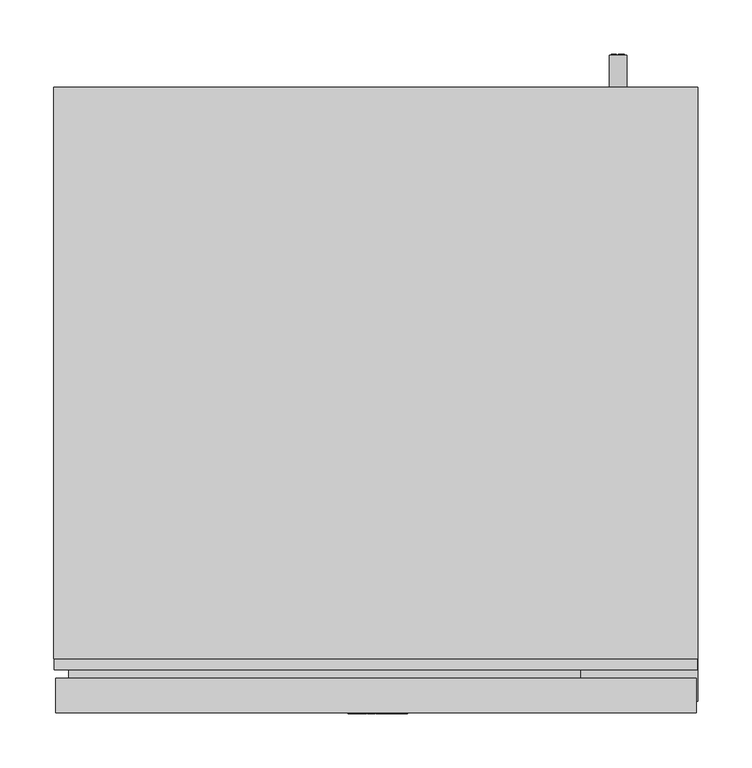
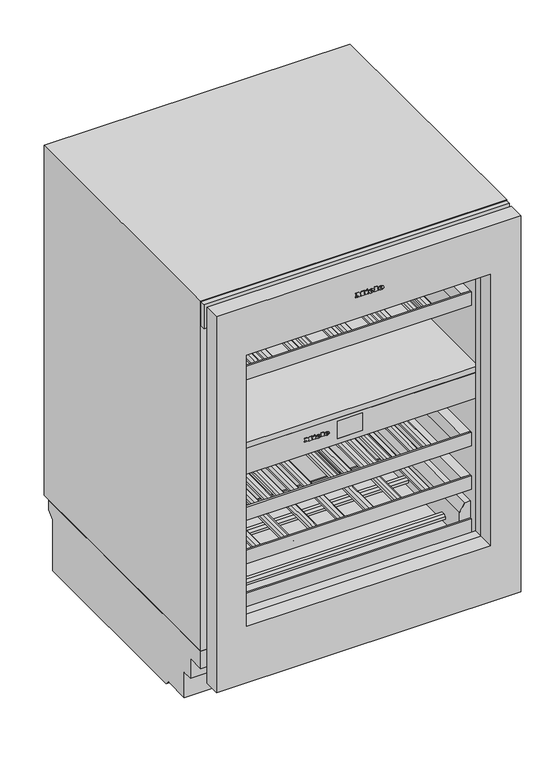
"""IFC4 building model written with IfcOpenShell, lengths in millimetres: proxy geometry, 12519660_EU1_KWTUS7196E_OBSW : 39719610_EU1_12519660_KWTUS7196E_OBSW."""

from ifc_helpers import new_model, si_unit, point, frame, frame_2d, origin, origin_with_axes, place, context, project, spatial, polyline, circle_curve, ellipse_curve, trimmed, segment, composite_curve, outline, extrude, faceted_brep, source, transform, mapped, element, save
from ifc_brep_helpers import plane_surface, cylinder_surface, revolved_surface, extruded_surface, advanced_brep


def specialty_equipment_d994dd0a(model_context):
    return source(origin(), model_context, "Body", "SolidModel", [
        extrude(outline(polyline([(808.991, -25.542), (808.991, -24.453), (802.97, -24.453), (802.97, -25.542), (801.458, -25.542), (801.458, -21.582), (802.97, -21.582), (802.97, -22.662), (806.7921247, -22.662), (801.458, -18.639), (806.8982223, -14.598), (802.97, -14.598), (802.97, -15.705), (801.458, -15.705), (801.458, -8.523), (802.97, -8.523), (802.97, -9.666), (808.991, -9.666), (808.991, -8.523), (810.458, -8.523), (810.458, -14.004), (807.083, -16.632), (810.458, -19.269), (810.458, -25.542), (808.991, -25.542)])), frame((0.0, -1.0, 0.0), z_axis=(0.0, 1.0, 0.0), x_axis=(0.0, 0.0, 1.0)), (0.0, 0.0, 1.0), 1.0),
        extrude(outline(polyline([(808.991, 10.98), (808.991, 12.06), (802.97, 12.06), (802.97, 10.98), (801.458, 10.98), (801.458, 18.279), (802.97, 18.279), (802.97, 17.172), (810.458, 17.172), (810.458, 10.98), (808.991, 10.98)])), frame((0.0, -1.0, 0.0), z_axis=(0.0, 1.0, 0.0), x_axis=(0.0, 0.0, 1.0)), (0.0, 0.0, 1.0), 1.0),
        extrude(outline(polyline([(809.927, -5.382), (808.469, -4.698), (809.891, -1.647), (811.349, -2.322), (809.927, -5.382)])), frame((0.0, -1.0, 0.0), z_axis=(0.0, 1.0, 0.0), x_axis=(0.0, 0.0, 1.0)), (0.0, 0.0, 1.0), 1.0),
        extrude(outline(polyline([(808.271, -7.605), (806.66, -7.605), (806.66, -6.534), (802.97, -6.534), (802.97, -7.605), (801.458, -7.605), (801.458, -0.504), (802.97, -0.504), (802.97, -1.548), (808.271, -1.548), (808.271, -7.605)])), frame((0.0, -1.0, 0.0), z_axis=(0.0, 1.0, 0.0), x_axis=(0.0, 0.0, 1.0)), (0.0, 0.0, 1.0), 1.0),
        advanced_brep(
        [(4.455, -1.0, 803.591), (4.455, -1.0, 804.5), (10.476, -1.0, 804.5), (0.0, -1.0, 804.5), (2.475, -1.0, 801.458), (10.323, -1.0, 803.591), (7.605, -1.0, 803.591), (5.463, -1.0, 802.583), (4.455, -1.0, 805.652), (4.455, -1.0, 806.633), (5.994, -1.0, 806.633), (5.994, -1.0, 805.652), (4.455, 0.0, 803.591), (5.463, 0.0, 802.583), (7.605, 0.0, 803.591), (10.323, 0.0, 803.591), (2.475, 0.0, 801.458), (0.0, 0.0, 804.5), (10.476, 0.0, 804.5), (4.455, 0.0, 804.5), (4.455, 0.0, 805.652), (5.994, 0.0, 805.652), (5.994, 0.0, 806.633), (4.455, 0.0, 806.633)],
        [
            (0, 1),
            (1, 2),
            (2, 3, ellipse_curve(frame((5.238, -1.0, 804.5), z_axis=(0.0, -1.0, 0.0), x_axis=(-1.0, 0.0, 0.0)), 5.238, 4.329)),
            (3, 4, circle_curve(frame((3.4830491, -1.0, 804.806), z_axis=(0.0, -1.0, 0.0), x_axis=(0.0, 0.0, -1.0)), 3.4964649)),
            (4, 5, circle_curve(frame((5.1331428, -1.0, 807.182), z_axis=(0.0, -1.0, 0.0), x_axis=(0.0, 0.0, -1.0)), 6.3110933)),
            (5, 6),
            (6, 7, circle_curve(frame((5.9029412, -1.0, 804.428), z_axis=(0.0, 1.0, 0.0), x_axis=(0.0, 0.0, -1.0)), 1.896727)),
            (7, 0, circle_curve(frame((5.463, -1.0, 803.591), z_axis=(0.0, 1.0, 0.0), x_axis=(0.0, 0.0, -1.0)), 1.008)),
            (8, 9),
            (9, 10, circle_curve(frame((5.2245, -1.0, 806.633), z_axis=(0.0, 1.0, 0.0), x_axis=(0.0, 0.0, -1.0)), 0.7695)),
            (10, 11),
            (11, 8),
            (12, 13, circle_curve(frame((5.463, 0.0, 803.591), z_axis=(0.0, -1.0, 0.0), x_axis=(0.0, 0.0, -1.0)), 1.008)),
            (13, 14, circle_curve(frame((5.9029412, 0.0, 804.428), z_axis=(0.0, -1.0, 0.0), x_axis=(0.0, 0.0, -1.0)), 1.896727)),
            (14, 15),
            (15, 16, circle_curve(frame((5.1331428, 0.0, 807.182), z_axis=(0.0, 1.0, 0.0), x_axis=(0.0, 0.0, -1.0)), 6.3110933)),
            (16, 17, circle_curve(frame((3.4830491, 0.0, 804.806), z_axis=(0.0, 1.0, 0.0), x_axis=(0.0, 0.0, -1.0)), 3.4964649)),
            (17, 18, ellipse_curve(frame((5.238, 0.0, 804.5), z_axis=(0.0, 1.0, 0.0), x_axis=(-1.0, 0.0, 0.0)), 5.238, 4.329)),
            (18, 19),
            (19, 12),
            (20, 21),
            (21, 22),
            (22, 23, circle_curve(frame((5.2245, 0.0, 806.633), z_axis=(0.0, -1.0, 0.0), x_axis=(0.0, 0.0, -1.0)), 0.7695)),
            (23, 20),
            (0, 12),
            (19, 1),
            (18, 2),
            (5, 15),
            (14, 6),
            (17, 3),
            (13, 7),
            (16, 4),
            (8, 20),
            (23, 9),
            (22, 10),
            (21, 11),
        ],
        [
            plane_surface(frame((4.455, -1.0, 804.5), z_axis=(0.0, -1.0, 0.0), x_axis=(0.0, 0.0, 1.0))),
            plane_surface(frame((4.455, 0.0, 804.5), z_axis=(0.0, 1.0, 0.0), x_axis=(0.0, 0.0, -1.0))),
            plane_surface(frame((4.455, -1.0, 803.591), z_axis=(1.0, 0.0, 0.0), x_axis=(0.0, 1.0, 0.0))),
            plane_surface(frame((4.455, -1.0, 804.5), z_axis=(0.0, 0.0, -1.0), x_axis=(0.0, 1.0, 0.0))),
            plane_surface(frame((10.323, -1.0, 803.591), z_axis=(0.0, 0.0, 1.0), x_axis=(0.0, 1.0, 0.0))),
            extruded_surface(trimmed(ellipse_curve(frame((5.238, 1.0, 804.5), z_axis=(0.0, -1.0, 0.0), x_axis=(-1.0, 0.0, 0.0)), 5.238, 4.329), [point((10.476, 1.0, 804.5))], [point((0.0, 1.0, 804.5))], True, "CARTESIAN"), (0.0, -1.0, 0.0), 1.0),
            revolved_surface(polyline([(5.9029412, 0.0, 802.5312729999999), (5.9029412, -1.0, 802.5312729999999)]), (5.9029412, 0.0, 804.428), (0.0, 1.0, 0.0)),
            revolved_surface(polyline([(5.463, 0.0, 802.583), (5.463, -1.0, 802.583)]), (5.463, 0.0, 803.591), (0.0, 1.0, 0.0)),
            cylinder_surface(frame((3.4830491, 0.0, 804.806), z_axis=(0.0, -1.0, 0.0), x_axis=(0.0, 0.0, -1.0)), 3.4964649),
            cylinder_surface(frame((5.1331428, 0.0, 807.182), z_axis=(0.0, -1.0, 0.0), x_axis=(0.0, 0.0, -1.0)), 6.3110933),
            plane_surface(frame((4.455, -1.0, 805.652), z_axis=(1.0, 0.0, 0.0), x_axis=(0.0, 1.0, 0.0))),
            revolved_surface(polyline([(5.2245, 0.0, 805.8635), (5.2245, -1.0, 805.8635)]), (5.2245, 0.0, 806.633), (0.0, 1.0, 0.0)),
            plane_surface(frame((5.994, -1.0, 806.633), z_axis=(-1.0, 0.0, 0.0), x_axis=(0.0, 1.0, 0.0))),
            plane_surface(frame((5.994, -1.0, 805.652), z_axis=(0.0, 0.0, 1.0), x_axis=(0.0, 1.0, 0.0))),
        ],
        [
            (0, [[1, 2, 3, 4, 5, 6, 7, 8], [9, 10, 11, 12]]),
            (1, [[13, 14, 15, 16, 17, 18, 19, 20], [21, 22, 23, 24]]),
            (2, [[-1, 25, -20, 26]]),
            (3, [[-2, -26, -19, 27]]),
            (4, [[-6, 28, -15, 29]]),
            (5, [[-3, -27, -18, 30]]),
            (6, [[-7, -29, -14, 31]]),
            (7, [[-8, -31, -13, -25]]),
            (8, [[-4, -30, -17, 32]]),
            (9, [[-5, -32, -16, -28]]),
            (10, [[-9, 33, -24, 34]]),
            (11, [[-10, -34, -23, 35]]),
            (12, [[-11, -35, -22, 36]]),
            (13, [[-12, -36, -21, -33]]),
        ],
    ),
        advanced_brep(
        [(23.238, -1.0, 803.591), (23.238, -1.0, 804.5), (29.259, -1.0, 804.5), (18.783, -1.0, 804.5), (21.258, -1.0, 801.458), (29.106, -1.0, 803.591), (26.388, -1.0, 803.591), (24.246, -1.0, 802.583), (23.238, -1.0, 805.652), (23.238, -1.0, 806.633), (24.777, -1.0, 806.633), (24.777, -1.0, 805.652), (23.238, 0.0, 803.591), (24.246, 0.0, 802.583), (26.388, 0.0, 803.591), (29.106, 0.0, 803.591), (21.258, 0.0, 801.458), (18.783, 0.0, 804.5), (29.259, 0.0, 804.5), (23.238, 0.0, 804.5), (23.238, 0.0, 805.652), (24.777, 0.0, 805.652), (24.777, 0.0, 806.633), (23.238, 0.0, 806.633)],
        [
            (0, 1),
            (1, 2),
            (2, 3, ellipse_curve(frame((24.021, -1.0, 804.5), z_axis=(0.0, -1.0, 0.0), x_axis=(-1.0, 0.0, 0.0)), 5.238, 4.329)),
            (3, 4, circle_curve(frame((22.2660491, -1.0, 804.806), z_axis=(0.0, -1.0, 0.0), x_axis=(0.0, 0.0, -1.0)), 3.4964649)),
            (4, 5, circle_curve(frame((23.9161428, -1.0, 807.182), z_axis=(0.0, -1.0, 0.0), x_axis=(0.0, 0.0, -1.0)), 6.3110933)),
            (5, 6),
            (6, 7, circle_curve(frame((24.6859412, -1.0, 804.428), z_axis=(0.0, 1.0, 0.0), x_axis=(0.0, 0.0, -1.0)), 1.896727)),
            (7, 0, circle_curve(frame((24.246, -1.0, 803.591), z_axis=(0.0, 1.0, 0.0), x_axis=(0.0, 0.0, -1.0)), 1.008)),
            (8, 9),
            (9, 10, circle_curve(frame((24.0075, -1.0, 806.633), z_axis=(0.0, 1.0, 0.0), x_axis=(0.0, 0.0, -1.0)), 0.7695)),
            (10, 11),
            (11, 8),
            (12, 13, circle_curve(frame((24.246, 0.0, 803.591), z_axis=(0.0, -1.0, 0.0), x_axis=(0.0, 0.0, -1.0)), 1.008)),
            (13, 14, circle_curve(frame((24.6859412, 0.0, 804.428), z_axis=(0.0, -1.0, 0.0), x_axis=(0.0, 0.0, -1.0)), 1.896727)),
            (14, 15),
            (15, 16, circle_curve(frame((23.9161428, 0.0, 807.182), z_axis=(0.0, 1.0, 0.0), x_axis=(0.0, 0.0, -1.0)), 6.3110933)),
            (16, 17, circle_curve(frame((22.2660491, 0.0, 804.806), z_axis=(0.0, 1.0, 0.0), x_axis=(0.0, 0.0, -1.0)), 3.4964649)),
            (17, 18, ellipse_curve(frame((24.021, 0.0, 804.5), z_axis=(0.0, 1.0, 0.0), x_axis=(-1.0, 0.0, 0.0)), 5.238, 4.329)),
            (18, 19),
            (19, 12),
            (20, 21),
            (21, 22),
            (22, 23, circle_curve(frame((24.0075, 0.0, 806.633), z_axis=(0.0, -1.0, 0.0), x_axis=(0.0, 0.0, -1.0)), 0.7695)),
            (23, 20),
            (0, 12),
            (19, 1),
            (18, 2),
            (5, 15),
            (14, 6),
            (17, 3),
            (13, 7),
            (16, 4),
            (8, 20),
            (23, 9),
            (22, 10),
            (21, 11),
        ],
        [
            plane_surface(frame((23.238, -1.0, 804.5), z_axis=(0.0, -1.0, 0.0), x_axis=(0.0, 0.0, 1.0))),
            plane_surface(frame((23.238, 0.0, 804.5), z_axis=(0.0, 1.0, 0.0), x_axis=(0.0, 0.0, -1.0))),
            plane_surface(frame((23.238, -1.0, 803.591), z_axis=(1.0, 0.0, 0.0), x_axis=(0.0, 1.0, 0.0))),
            plane_surface(frame((23.238, -1.0, 804.5), z_axis=(0.0, 0.0, -1.0), x_axis=(0.0, 1.0, 0.0))),
            plane_surface(frame((29.106, -1.0, 803.591), z_axis=(0.0, 0.0, 1.0), x_axis=(0.0, 1.0, 0.0))),
            extruded_surface(trimmed(ellipse_curve(frame((24.021, 1.0, 804.5), z_axis=(0.0, -1.0, 0.0), x_axis=(-1.0, 0.0, 0.0)), 5.238, 4.329), [point((29.259, 1.0, 804.5))], [point((18.783, 1.0, 804.5))], True, "CARTESIAN"), (0.0, -1.0, 0.0), 1.0),
            revolved_surface(polyline([(24.6859412, 0.0, 802.5312729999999), (24.6859412, -1.0, 802.5312729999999)]), (24.6859412, 0.0, 804.428), (0.0, 1.0, 0.0)),
            revolved_surface(polyline([(24.246, 0.0, 802.583), (24.246, -1.0, 802.583)]), (24.246, 0.0, 803.591), (0.0, 1.0, 0.0)),
            cylinder_surface(frame((22.2660491, 0.0, 804.806), z_axis=(0.0, -1.0, 0.0), x_axis=(0.0, 0.0, -1.0)), 3.4964649),
            cylinder_surface(frame((23.9161428, 0.0, 807.182), z_axis=(0.0, -1.0, 0.0), x_axis=(0.0, 0.0, -1.0)), 6.3110933),
            plane_surface(frame((23.238, -1.0, 805.652), z_axis=(1.0, 0.0, 0.0), x_axis=(0.0, 1.0, 0.0))),
            revolved_surface(polyline([(24.0075, 0.0, 805.8635), (24.0075, -1.0, 805.8635)]), (24.0075, 0.0, 806.633), (0.0, 1.0, 0.0)),
            plane_surface(frame((24.777, -1.0, 806.633), z_axis=(-1.0, 0.0, 0.0), x_axis=(0.0, 1.0, 0.0))),
            plane_surface(frame((24.777, -1.0, 805.652), z_axis=(0.0, 0.0, 1.0), x_axis=(0.0, 1.0, 0.0))),
        ],
        [
            (0, [[1, 2, 3, 4, 5, 6, 7, 8], [9, 10, 11, 12]]),
            (1, [[13, 14, 15, 16, 17, 18, 19, 20], [21, 22, 23, 24]]),
            (2, [[-1, 25, -20, 26]]),
            (3, [[-2, -26, -19, 27]]),
            (4, [[-6, 28, -15, 29]]),
            (5, [[-3, -27, -18, 30]]),
            (6, [[-7, -29, -14, 31]]),
            (7, [[-8, -31, -13, -25]]),
            (8, [[-4, -30, -17, 32]]),
            (9, [[-5, -32, -16, -28]]),
            (10, [[-9, 33, -24, 34]]),
            (11, [[-10, -34, -23, 35]]),
            (12, [[-11, -35, -22, 36]]),
            (13, [[-12, -36, -21, -33]]),
        ],
    ),
        extrude(outline(polyline([(494.1556157, -89.367984), (494.1556157, -88.399984), (488.8036157, -88.399984), (488.8036157, -89.367984), (487.4596157, -89.367984), (487.4596157, -85.847984), (488.8036157, -85.847984), (488.8036157, -86.807984), (492.2067404, -86.807984), (487.4596157, -83.231984), (492.274838, -79.639984), (488.8036157, -79.639984), (488.8036157, -80.623984), (487.4596157, -80.623984), (487.4596157, -74.239984), (488.8036157, -74.239984), (488.8036157, -75.255984), (494.1556157, -75.255984), (494.1556157, -74.239984), (495.4596157, -74.239984), (495.4596157, -79.111984), (492.4596157, -81.447984), (495.4596157, -83.791984), (495.4596157, -89.367984), (494.1556157, -89.367984)])), frame((0.0, 62.0, 0.0), z_axis=(0.0, 1.0, 0.0), x_axis=(0.0, 0.0, 1.0)), (0.0, 0.0, 1.0), 1.0),
        extrude(outline(polyline([(494.1556157, -56.903984), (494.1556157, -55.943984), (488.8036157, -55.943984), (488.8036157, -56.903984), (487.4596157, -56.903984), (487.4596157, -50.415984), (488.8036157, -50.415984), (488.8036157, -51.399984), (495.4596157, -51.399984), (495.4596157, -56.903984), (494.1556157, -56.903984)])), frame((0.0, 62.0, 0.0), z_axis=(0.0, 1.0, 0.0), x_axis=(0.0, 0.0, 1.0)), (0.0, 0.0, 1.0), 1.0),
        extrude(outline(polyline([(494.9876157, -71.447984), (493.6916157, -70.839984), (494.9556157, -68.127984), (496.2516157, -68.727984), (494.9876157, -71.447984)])), frame((0.0, 62.0, 0.0), z_axis=(0.0, 1.0, 0.0), x_axis=(0.0, 0.0, 1.0)), (0.0, 0.0, 1.0), 1.0),
        extrude(outline(polyline([(493.5156157, -73.423984), (492.0836157, -73.423984), (492.0836157, -72.471984), (488.8036157, -72.471984), (488.8036157, -73.423984), (487.4596157, -73.423984), (487.4596157, -67.111984), (488.8036157, -67.111984), (488.8036157, -68.039984), (493.5156157, -68.039984), (493.5156157, -73.423984)])), frame((0.0, 62.0, 0.0), z_axis=(0.0, 1.0, 0.0), x_axis=(0.0, 0.0, 1.0)), (0.0, 0.0, 1.0), 1.0),
        advanced_brep(
        [(-62.703984, 62.0, 489.3556157), (-62.703984, 62.0, 490.1636157), (-57.351984, 62.0, 490.1636157), (-66.663984, 62.0, 490.1636157), (-64.463984, 62.0, 487.4596157), (-57.487984, 62.0, 489.3556157), (-59.903984, 62.0, 489.3556157), (-61.807984, 62.0, 488.4596157), (-62.703984, 62.0, 491.1876157), (-62.703984, 62.0, 492.0596157), (-61.335984, 62.0, 492.0596157), (-61.335984, 62.0, 491.1876157), (-62.703984, 63.0, 489.3556157), (-61.807984, 63.0, 488.4596157), (-59.903984, 63.0, 489.3556157), (-57.487984, 63.0, 489.3556157), (-64.463984, 63.0, 487.4596157), (-66.663984, 63.0, 490.1636157), (-57.351984, 63.0, 490.1636157), (-62.703984, 63.0, 490.1636157), (-62.703984, 63.0, 491.1876157), (-61.335984, 63.0, 491.1876157), (-61.335984, 63.0, 492.0596157), (-62.703984, 63.0, 492.0596157)],
        [
            (0, 1),
            (1, 2),
            (2, 3, ellipse_curve(frame((-62.007984, 62.0, 490.1636157), z_axis=(0.0, -1.0, 0.0), x_axis=(-1.0, 0.0, 0.0)), 4.656, 3.848)),
            (3, 4, circle_curve(frame((-63.5679404, 62.0, 490.4356157), z_axis=(0.0, -1.0, 0.0), x_axis=(0.0, 0.0, -1.0)), 3.1079688)),
            (4, 5, circle_curve(frame((-62.1011904, 62.0, 492.5476157), z_axis=(0.0, -1.0, 0.0), x_axis=(0.0, 0.0, -1.0)), 5.6098607)),
            (5, 6),
            (6, 7, circle_curve(frame((-61.4169252, 62.0, 490.0996157), z_axis=(0.0, 1.0, 0.0), x_axis=(0.0, 0.0, -1.0)), 1.6859795)),
            (7, 0, circle_curve(frame((-61.807984, 62.0, 489.3556157), z_axis=(0.0, 1.0, 0.0), x_axis=(0.0, 0.0, -1.0)), 0.896)),
            (8, 9),
            (9, 10, circle_curve(frame((-62.019984, 62.0, 492.0596157), z_axis=(0.0, 1.0, 0.0), x_axis=(0.0, 0.0, -1.0)), 0.684)),
            (10, 11),
            (11, 8),
            (12, 13, circle_curve(frame((-61.807984, 63.0, 489.3556157), z_axis=(0.0, -1.0, 0.0), x_axis=(0.0, 0.0, -1.0)), 0.896)),
            (13, 14, circle_curve(frame((-61.4169252, 63.0, 490.0996157), z_axis=(0.0, -1.0, 0.0), x_axis=(0.0, 0.0, -1.0)), 1.6859795)),
            (14, 15),
            (15, 16, circle_curve(frame((-62.1011904, 63.0, 492.5476157), z_axis=(0.0, 1.0, 0.0), x_axis=(0.0, 0.0, -1.0)), 5.6098607)),
            (16, 17, circle_curve(frame((-63.5679404, 63.0, 490.4356157), z_axis=(0.0, 1.0, 0.0), x_axis=(0.0, 0.0, -1.0)), 3.1079688)),
            (17, 18, ellipse_curve(frame((-62.007984, 63.0, 490.1636157), z_axis=(0.0, 1.0, 0.0), x_axis=(-1.0, 0.0, 0.0)), 4.656, 3.848)),
            (18, 19),
            (19, 12),
            (20, 21),
            (21, 22),
            (22, 23, circle_curve(frame((-62.019984, 63.0, 492.0596157), z_axis=(0.0, -1.0, 0.0), x_axis=(0.0, 0.0, -1.0)), 0.684)),
            (23, 20),
            (0, 12),
            (19, 1),
            (18, 2),
            (5, 15),
            (14, 6),
            (17, 3),
            (13, 7),
            (16, 4),
            (8, 20),
            (23, 9),
            (22, 10),
            (21, 11),
        ],
        [
            plane_surface(frame((-62.703984, 62.0, 490.1636157), z_axis=(0.0, -1.0, 0.0), x_axis=(0.0, 0.0, 1.0))),
            plane_surface(frame((-62.703984, 63.0, 490.1636157), z_axis=(0.0, 1.0, 0.0), x_axis=(0.0, 0.0, -1.0))),
            plane_surface(frame((-62.703984, 62.0, 489.3556157), z_axis=(1.0, 0.0, 0.0), x_axis=(0.0, 1.0, 0.0))),
            plane_surface(frame((-62.703984, 62.0, 490.1636157), z_axis=(0.0, 0.0, -1.0), x_axis=(0.0, 1.0, 0.0))),
            plane_surface(frame((-57.487984, 62.0, 489.3556157), z_axis=(0.0, 0.0, 1.0), x_axis=(0.0, 1.0, 0.0))),
            extruded_surface(trimmed(ellipse_curve(frame((-62.007984, 64.0, 490.1636157), z_axis=(0.0, -1.0, 0.0), x_axis=(-1.0, 0.0, 0.0)), 4.656, 3.848), [point((-57.351984, 64.0, 490.1636157))], [point((-66.663984, 64.0, 490.1636157))], True, "CARTESIAN"), (0.0, -1.0, 0.0), 1.0),
            revolved_surface(polyline([(-61.4169252, 63.0, 488.41363620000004), (-61.4169252, 62.0, 488.41363620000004)]), (-61.4169252, 63.0, 490.0996157), (0.0, 1.0, 0.0)),
            revolved_surface(polyline([(-61.807984, 63.0, 488.4596157), (-61.807984, 62.0, 488.4596157)]), (-61.807984, 63.0, 489.3556157), (0.0, 1.0, 0.0)),
            cylinder_surface(frame((-63.5679404, 63.0, 490.4356157), z_axis=(0.0, -1.0, 0.0), x_axis=(0.0, 0.0, -1.0)), 3.1079688),
            cylinder_surface(frame((-62.1011904, 63.0, 492.5476157), z_axis=(0.0, -1.0, 0.0), x_axis=(0.0, 0.0, -1.0)), 5.6098607),
            plane_surface(frame((-62.703984, 62.0, 491.1876157), z_axis=(1.0, 0.0, 0.0), x_axis=(0.0, 1.0, 0.0))),
            revolved_surface(polyline([(-62.019984, 63.0, 491.37561569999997), (-62.019984, 62.0, 491.37561569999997)]), (-62.019984, 63.0, 492.0596157), (0.0, 1.0, 0.0)),
            plane_surface(frame((-61.335984, 62.0, 492.0596157), z_axis=(-1.0, 0.0, 0.0), x_axis=(0.0, 1.0, 0.0))),
            plane_surface(frame((-61.335984, 62.0, 491.1876157), z_axis=(0.0, 0.0, 1.0), x_axis=(0.0, 1.0, 0.0))),
        ],
        [
            (0, [[1, 2, 3, 4, 5, 6, 7, 8], [9, 10, 11, 12]]),
            (1, [[13, 14, 15, 16, 17, 18, 19, 20], [21, 22, 23, 24]]),
            (2, [[-1, 25, -20, 26]]),
            (3, [[-2, -26, -19, 27]]),
            (4, [[-6, 28, -15, 29]]),
            (5, [[-3, -27, -18, 30]]),
            (6, [[-7, -29, -14, 31]]),
            (7, [[-8, -31, -13, -25]]),
            (8, [[-4, -30, -17, 32]]),
            (9, [[-5, -32, -16, -28]]),
            (10, [[-9, 33, -24, 34]]),
            (11, [[-10, -34, -23, 35]]),
            (12, [[-11, -35, -22, 36]]),
            (13, [[-12, -36, -21, -33]]),
        ],
    ),
        advanced_brep(
        [(-46.007984, 62.0, 489.3556157), (-46.007984, 62.0, 490.1636157), (-40.655984, 62.0, 490.1636157), (-49.967984, 62.0, 490.1636157), (-47.767984, 62.0, 487.4596157), (-40.791984, 62.0, 489.3556157), (-43.207984, 62.0, 489.3556157), (-45.111984, 62.0, 488.4596157), (-46.007984, 62.0, 491.1876157), (-46.007984, 62.0, 492.0596157), (-44.639984, 62.0, 492.0596157), (-44.639984, 62.0, 491.1876157), (-46.007984, 63.0, 489.3556157), (-45.111984, 63.0, 488.4596157), (-43.207984, 63.0, 489.3556157), (-40.791984, 63.0, 489.3556157), (-47.767984, 63.0, 487.4596157), (-49.967984, 63.0, 490.1636157), (-40.655984, 63.0, 490.1636157), (-46.007984, 63.0, 490.1636157), (-46.007984, 63.0, 491.1876157), (-44.639984, 63.0, 491.1876157), (-44.639984, 63.0, 492.0596157), (-46.007984, 63.0, 492.0596157)],
        [
            (0, 1),
            (1, 2),
            (2, 3, ellipse_curve(frame((-45.311984, 62.0, 490.1636157), z_axis=(0.0, -1.0, 0.0), x_axis=(-1.0, 0.0, 0.0)), 4.656, 3.848)),
            (3, 4, circle_curve(frame((-46.8719404, 62.0, 490.4356157), z_axis=(0.0, -1.0, 0.0), x_axis=(0.0, 0.0, -1.0)), 3.1079688)),
            (4, 5, circle_curve(frame((-45.4051904, 62.0, 492.5476157), z_axis=(0.0, -1.0, 0.0), x_axis=(0.0, 0.0, -1.0)), 5.6098607)),
            (5, 6),
            (6, 7, circle_curve(frame((-44.7209252, 62.0, 490.0996157), z_axis=(0.0, 1.0, 0.0), x_axis=(0.0, 0.0, -1.0)), 1.6859795)),
            (7, 0, circle_curve(frame((-45.111984, 62.0, 489.3556157), z_axis=(0.0, 1.0, 0.0), x_axis=(0.0, 0.0, -1.0)), 0.896)),
            (8, 9),
            (9, 10, circle_curve(frame((-45.323984, 62.0, 492.0596157), z_axis=(0.0, 1.0, 0.0), x_axis=(0.0, 0.0, -1.0)), 0.684)),
            (10, 11),
            (11, 8),
            (12, 13, circle_curve(frame((-45.111984, 63.0, 489.3556157), z_axis=(0.0, -1.0, 0.0), x_axis=(0.0, 0.0, -1.0)), 0.896)),
            (13, 14, circle_curve(frame((-44.7209252, 63.0, 490.0996157), z_axis=(0.0, -1.0, 0.0), x_axis=(0.0, 0.0, -1.0)), 1.6859795)),
            (14, 15),
            (15, 16, circle_curve(frame((-45.4051904, 63.0, 492.5476157), z_axis=(0.0, 1.0, 0.0), x_axis=(0.0, 0.0, -1.0)), 5.6098607)),
            (16, 17, circle_curve(frame((-46.8719404, 63.0, 490.4356157), z_axis=(0.0, 1.0, 0.0), x_axis=(0.0, 0.0, -1.0)), 3.1079688)),
            (17, 18, ellipse_curve(frame((-45.311984, 63.0, 490.1636157), z_axis=(0.0, 1.0, 0.0), x_axis=(-1.0, 0.0, 0.0)), 4.656, 3.848)),
            (18, 19),
            (19, 12),
            (20, 21),
            (21, 22),
            (22, 23, circle_curve(frame((-45.323984, 63.0, 492.0596157), z_axis=(0.0, -1.0, 0.0), x_axis=(0.0, 0.0, -1.0)), 0.684)),
            (23, 20),
            (0, 12),
            (19, 1),
            (18, 2),
            (5, 15),
            (14, 6),
            (17, 3),
            (13, 7),
            (16, 4),
            (8, 20),
            (23, 9),
            (22, 10),
            (21, 11),
        ],
        [
            plane_surface(frame((-46.007984, 62.0, 490.1636157), z_axis=(0.0, -1.0, 0.0), x_axis=(0.0, 0.0, 1.0))),
            plane_surface(frame((-46.007984, 63.0, 490.1636157), z_axis=(0.0, 1.0, 0.0), x_axis=(0.0, 0.0, -1.0))),
            plane_surface(frame((-46.007984, 62.0, 489.3556157), z_axis=(1.0, 0.0, 0.0), x_axis=(0.0, 1.0, 0.0))),
            plane_surface(frame((-46.007984, 62.0, 490.1636157), z_axis=(0.0, 0.0, -1.0), x_axis=(0.0, 1.0, 0.0))),
            plane_surface(frame((-40.791984, 62.0, 489.3556157), z_axis=(0.0, 0.0, 1.0), x_axis=(0.0, 1.0, 0.0))),
            extruded_surface(trimmed(ellipse_curve(frame((-45.311984, 64.0, 490.1636157), z_axis=(0.0, -1.0, 0.0), x_axis=(-1.0, 0.0, 0.0)), 4.656, 3.848), [point((-40.655984, 64.0, 490.1636157))], [point((-49.967984, 64.0, 490.1636157))], True, "CARTESIAN"), (0.0, -1.0, 0.0), 1.0),
            revolved_surface(polyline([(-44.7209252, 63.0, 488.41363620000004), (-44.7209252, 62.0, 488.41363620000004)]), (-44.7209252, 63.0, 490.0996157), (0.0, 1.0, 0.0)),
            revolved_surface(polyline([(-45.111984, 63.0, 488.4596157), (-45.111984, 62.0, 488.4596157)]), (-45.111984, 63.0, 489.3556157), (0.0, 1.0, 0.0)),
            cylinder_surface(frame((-46.8719404, 63.0, 490.4356157), z_axis=(0.0, -1.0, 0.0), x_axis=(0.0, 0.0, -1.0)), 3.1079688),
            cylinder_surface(frame((-45.4051904, 63.0, 492.5476157), z_axis=(0.0, -1.0, 0.0), x_axis=(0.0, 0.0, -1.0)), 5.6098607),
            plane_surface(frame((-46.007984, 62.0, 491.1876157), z_axis=(1.0, 0.0, 0.0), x_axis=(0.0, 1.0, 0.0))),
            revolved_surface(polyline([(-45.323984, 63.0, 491.37561569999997), (-45.323984, 62.0, 491.37561569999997)]), (-45.323984, 63.0, 492.0596157), (0.0, 1.0, 0.0)),
            plane_surface(frame((-44.639984, 62.0, 492.0596157), z_axis=(-1.0, 0.0, 0.0), x_axis=(0.0, 1.0, 0.0))),
            plane_surface(frame((-44.639984, 62.0, 491.1876157), z_axis=(0.0, 0.0, 1.0), x_axis=(0.0, 1.0, 0.0))),
        ],
        [
            (0, [[1, 2, 3, 4, 5, 6, 7, 8], [9, 10, 11, 12]]),
            (1, [[13, 14, 15, 16, 17, 18, 19, 20], [21, 22, 23, 24]]),
            (2, [[-1, 25, -20, 26]]),
            (3, [[-2, -26, -19, 27]]),
            (4, [[-6, 28, -15, 29]]),
            (5, [[-3, -27, -18, 30]]),
            (6, [[-7, -29, -14, 31]]),
            (7, [[-8, -31, -13, -25]]),
            (8, [[-4, -30, -17, 32]]),
            (9, [[-5, -32, -16, -28]]),
            (10, [[-9, 33, -24, 34]]),
            (11, [[-10, -34, -23, 35]]),
            (12, [[-11, -35, -22, 36]]),
            (13, [[-12, -36, -21, -33]]),
        ],
    ),
        extrude(outline(polyline([(278.8, -157.5), (283.5052612, -157.5), (287.5052612, -161.5), (287.5052612, -168.5), (283.5052612, -172.5), (278.8, -172.5), (278.8, -157.5)])), frame((0.0, 68.5000244, 0.0), z_axis=(0.0, 1.0, 0.0), x_axis=(0.0, 0.0, 1.0)), (0.0, 0.0, 1.0), 419.111792),
        extrude(outline(polyline([(278.8, -102.5), (283.5052612, -102.5), (287.5052612, -106.5), (287.5052612, -113.5), (283.5052612, -117.5), (278.8, -117.5), (278.8, -102.5)])), frame((0.0, 68.5000244, 0.0), z_axis=(0.0, 1.0, 0.0), x_axis=(0.0, 0.0, 1.0)), (0.0, 0.0, 1.0), 419.111792),
        extrude(outline(polyline([(278.8, 157.5), (278.8, 172.5), (283.5052612, 172.5), (287.5052612, 168.5), (287.5052612, 161.5), (283.5052612, 157.5), (278.8, 157.5)])), frame((0.0, 68.5000244, 0.0), z_axis=(0.0, 1.0, 0.0), x_axis=(0.0, 0.0, 1.0)), (0.0, 0.0, 1.0), 419.111792),
        extrude(outline(polyline([(278.8, 102.5), (278.8, 117.5), (283.5052612, 117.5), (287.5052612, 113.5), (287.5052612, 106.5), (283.5052612, 102.5), (278.8, 102.5)])), frame((0.0, 68.5000244, 0.0), z_axis=(0.0, 1.0, 0.0), x_axis=(0.0, 0.0, 1.0)), (0.0, 0.0, 1.0), 419.111792),
        extrude(outline(polyline([(278.8, -47.5), (283.5052612, -47.5), (287.5052612, -51.5), (287.5052612, -58.5), (283.5052612, -62.5), (278.8, -62.5), (278.8, -47.5)])), frame((0.0, 68.5000244, 0.0), z_axis=(0.0, 1.0, 0.0), x_axis=(0.0, 0.0, 1.0)), (0.0, 0.0, 1.0), 419.111792),
        extrude(outline(polyline([(278.8, 47.5), (278.8, 62.5), (283.5052612, 62.5), (287.5052612, 58.5), (287.5052612, 51.5), (283.5052612, 47.5), (278.8, 47.5)])), frame((0.0, 68.5000244, 0.0), z_axis=(0.0, 1.0, 0.0), x_axis=(0.0, 0.0, 1.0)), (0.0, 0.0, 1.0), 419.111792),
        extrude(outline(polyline([(278.8, 7.5), (283.5052612, 7.5), (287.5052612, 3.5), (287.5052612, -3.5), (283.5052612, -7.5), (278.8, -7.5), (278.8, 7.5)])), frame((0.0, 68.5000244, 0.0), z_axis=(0.0, 1.0, 0.0), x_axis=(0.0, 0.0, 1.0)), (0.0, 0.0, 1.0), 419.111792),
        extrude(outline(polyline([(238.5, 65.0000244), (-238.5, 65.0000244), (-238.5, 68.5000244), (238.5, 68.5000244), (238.5, 65.0000244)])), frame((0.0, 0.0, 186.0), z_axis=(0.0, 0.0, 1.0), x_axis=(1.0, 0.0, 0.0)), (0.0, 0.0, 1.0), 27.5),
        extrude(outline(polyline([(249.0, -226.9226475), (249.0, -238.5), (181.0206134, -238.5), (181.0206134, -216.8069153), (231.4790485, -216.8069153), (249.0, -226.9226475)])), frame((0.0, 68.5000244, 0.0), z_axis=(0.0, 1.0, 0.0), x_axis=(0.0, 0.0, 1.0)), (0.0, 0.0, 1.0), 294.1981801),
        extrude(outline(polyline([(249.0, 226.9226475), (231.4790485, 216.8069153), (181.0206134, 216.8069153), (181.0206134, 238.5), (249.0, 238.5), (249.0, 226.9226475)])), frame((0.0, 68.5000244, 0.0), z_axis=(0.0, 1.0, 0.0), x_axis=(0.0, 0.0, 1.0)), (0.0, 0.0, 1.0), 294.1981801),
        extrude(outline(polyline([(238.5, 65.0000244), (-238.5, 65.0000244), (-238.5, 68.5000244), (238.5, 68.5000244), (238.5, 65.0000244)])), frame((0.0, 0.0, 364.0), z_axis=(0.0, 0.0, 1.0), x_axis=(1.0, 0.0, 0.0)), (0.0, 0.0, 1.0), 27.5),
        extrude(outline(polyline([(658.2947388, -160.4764937), (663.0, -160.4764937), (667.0, -164.4764937), (667.0, -171.4764937), (663.0, -175.4764937), (658.2947388, -175.4764937), (658.2947388, -160.4764937)])), frame((0.0, 68.5000244, 0.0), z_axis=(0.0, 1.0, 0.0), x_axis=(0.0, 0.0, 1.0)), (0.0, 0.0, 1.0), 419.111792),
        extrude(outline(polyline([(658.2947388, -134.5453754), (663.0, -134.5453754), (667.0, -138.5453754), (667.0, -145.5453754), (663.0, -149.5453754), (658.2947388, -149.5453754), (658.2947388, -134.5453754)])), frame((0.0, 68.5000244, 0.0), z_axis=(0.0, 1.0, 0.0), x_axis=(0.0, 0.0, 1.0)), (0.0, 0.0, 1.0), 419.111792),
        extrude(outline(polyline([(658.2947388, -82.9166641), (663.0, -82.9166641), (667.0, -86.9166641), (667.0, -93.9166641), (663.0, -97.9166641), (658.2947388, -97.9166641), (658.2947388, -82.9166641)])), frame((0.0, 68.5000244, 0.0), z_axis=(0.0, 1.0, 0.0), x_axis=(0.0, 0.0, 1.0)), (0.0, 0.0, 1.0), 419.111792),
        extrude(outline(polyline([(658.2947388, -56.9855458), (663.0, -56.9855458), (667.0, -60.9855458), (667.0, -67.9855458), (663.0, -71.9855458), (658.2947388, -71.9855458), (658.2947388, -56.9855458)])), frame((0.0, 68.5000244, 0.0), z_axis=(0.0, 1.0, 0.0), x_axis=(0.0, 0.0, 1.0)), (0.0, 0.0, 1.0), 419.111792),
        extrude(outline(polyline([(658.2947388, 160.4764937), (658.2947388, 175.4764937), (663.0, 175.4764937), (667.0, 171.4764937), (667.0, 164.4764937), (663.0, 160.4764937), (658.2947388, 160.4764937)])), frame((0.0, 68.5000244, 0.0), z_axis=(0.0, 1.0, 0.0), x_axis=(0.0, 0.0, 1.0)), (0.0, 0.0, 1.0), 419.111792),
        extrude(outline(polyline([(658.2947388, 134.5453754), (658.2947388, 149.5453754), (663.0, 149.5453754), (667.0, 145.5453754), (667.0, 138.5453754), (663.0, 134.5453754), (658.2947388, 134.5453754)])), frame((0.0, 68.5000244, 0.0), z_axis=(0.0, 1.0, 0.0), x_axis=(0.0, 0.0, 1.0)), (0.0, 0.0, 1.0), 419.111792),
        extrude(outline(polyline([(658.2947388, 82.9166641), (658.2947388, 97.9166641), (663.0, 97.9166641), (667.0, 93.9166641), (667.0, 86.9166641), (663.0, 82.9166641), (658.2947388, 82.9166641)])), frame((0.0, 68.5000244, 0.0), z_axis=(0.0, 1.0, 0.0), x_axis=(0.0, 0.0, 1.0)), (0.0, 0.0, 1.0), 419.111792),
        extrude(outline(polyline([(658.2947388, 56.9855458), (658.2947388, 71.9855458), (663.0, 71.9855458), (667.0, 67.9855458), (667.0, 60.9855458), (663.0, 56.9855458), (658.2947388, 56.9855458)])), frame((0.0, 68.5000244, 0.0), z_axis=(0.0, 1.0, 0.0), x_axis=(0.0, 0.0, 1.0)), (0.0, 0.0, 1.0), 419.111792),
        extrude(outline(polyline([(658.2947388, -5.416666), (663.0, -5.416666), (667.0, -9.416666), (667.0, -16.416666), (663.0, -20.416666), (658.2947388, -20.416666), (658.2947388, -5.416666)])), frame((0.0, 68.5000244, 0.0), z_axis=(0.0, 1.0, 0.0), x_axis=(0.0, 0.0, 1.0)), (0.0, 0.0, 1.0), 419.111792),
        extrude(outline(polyline([(658.2947388, 20.5144523), (663.0, 20.5144523), (667.0, 16.5144523), (667.0, 9.5144523), (663.0, 5.5144523), (658.2947388, 5.5144523), (658.2947388, 20.5144523)])), frame((0.0, 68.5000244, 0.0), z_axis=(0.0, 1.0, 0.0), x_axis=(0.0, 0.0, 1.0)), (0.0, 0.0, 1.0), 419.111792),
        extrude(outline(polyline([(368.2947388, -160.4166718), (373.0, -160.4166718), (377.0, -164.4166718), (377.0, -171.4166718), (373.0, -175.4166718), (368.2947388, -175.4166718), (368.2947388, -160.4166718)])), frame((0.0, 68.5000244, 0.0), z_axis=(0.0, 1.0, 0.0), x_axis=(0.0, 0.0, 1.0)), (0.0, 0.0, 1.0), 419.111792),
        extrude(outline(polyline([(368.2947388, -134.4855535), (373.0, -134.4855535), (377.0, -138.4855535), (377.0, -145.4855535), (373.0, -149.4855535), (368.2947388, -149.4855535), (368.2947388, -134.4855535)])), frame((0.0, 68.5000244, 0.0), z_axis=(0.0, 1.0, 0.0), x_axis=(0.0, 0.0, 1.0)), (0.0, 0.0, 1.0), 419.111792),
        extrude(outline(polyline([(368.2947388, -82.8568422), (373.0, -82.8568422), (377.0, -86.8568422), (377.0, -93.8568422), (373.0, -97.8568422), (368.2947388, -97.8568422), (368.2947388, -82.8568422)])), frame((0.0, 68.5000244, 0.0), z_axis=(0.0, 1.0, 0.0), x_axis=(0.0, 0.0, 1.0)), (0.0, 0.0, 1.0), 419.111792),
        extrude(outline(polyline([(368.2947388, -56.9257239), (373.0, -56.9257239), (377.0, -60.9257239), (377.0, -67.9257239), (373.0, -71.9257239), (368.2947388, -71.9257239), (368.2947388, -56.9257239)])), frame((0.0, 68.5000244, 0.0), z_axis=(0.0, 1.0, 0.0), x_axis=(0.0, 0.0, 1.0)), (0.0, 0.0, 1.0), 419.111792),
        extrude(outline(polyline([(368.2947388, 160.5363156), (368.2947388, 175.5363156), (373.0, 175.5363156), (377.0, 171.5363156), (377.0, 164.5363156), (373.0, 160.5363156), (368.2947388, 160.5363156)])), frame((0.0, 68.5000244, 0.0), z_axis=(0.0, 1.0, 0.0), x_axis=(0.0, 0.0, 1.0)), (0.0, 0.0, 1.0), 419.111792),
        extrude(outline(polyline([(368.2947388, 134.6051973), (368.2947388, 149.6051973), (373.0, 149.6051973), (377.0, 145.6051973), (377.0, 138.6051973), (373.0, 134.6051973), (368.2947388, 134.6051973)])), frame((0.0, 68.5000244, 0.0), z_axis=(0.0, 1.0, 0.0), x_axis=(0.0, 0.0, 1.0)), (0.0, 0.0, 1.0), 419.111792),
        extrude(outline(polyline([(368.2947388, 82.976486), (368.2947388, 97.976486), (373.0, 97.976486), (377.0, 93.976486), (377.0, 86.976486), (373.0, 82.976486), (368.2947388, 82.976486)])), frame((0.0, 68.5000244, 0.0), z_axis=(0.0, 1.0, 0.0), x_axis=(0.0, 0.0, 1.0)), (0.0, 0.0, 1.0), 419.111792),
        extrude(outline(polyline([(368.2947388, 57.0453677), (368.2947388, 72.0453677), (373.0, 72.0453677), (377.0, 68.0453677), (377.0, 61.0453677), (373.0, 57.0453677), (368.2947388, 57.0453677)])), frame((0.0, 68.5000244, 0.0), z_axis=(0.0, 1.0, 0.0), x_axis=(0.0, 0.0, 1.0)), (0.0, 0.0, 1.0), 419.111792),
        extrude(outline(polyline([(368.2947388, -5.3568441), (373.0, -5.3568441), (377.0, -9.3568441), (377.0, -16.3568441), (373.0, -20.3568441), (368.2947388, -20.3568441), (368.2947388, -5.3568441)])), frame((0.0, 68.5000244, 0.0), z_axis=(0.0, 1.0, 0.0), x_axis=(0.0, 0.0, 1.0)), (0.0, 0.0, 1.0), 419.111792),
        extrude(outline(polyline([(368.2947388, 20.5742742), (373.0, 20.5742742), (377.0, 16.5742742), (377.0, 9.5742742), (373.0, 5.5742742), (368.2947388, 5.5742742), (368.2947388, 20.5742742)])), frame((0.0, 68.5000244, 0.0), z_axis=(0.0, 1.0, 0.0), x_axis=(0.0, 0.0, 1.0)), (0.0, 0.0, 1.0), 419.111792),
        extrude(outline(polyline([(238.5, 487.6118164), (-238.5, 487.6118164), (-238.5, 491.1118408), (238.5, 491.1118408), (238.5, 487.6118164)])), frame((0.0, 0.0, 275.0), z_axis=(0.0, 0.0, 1.0), x_axis=(1.0, 0.0, 0.0)), (0.0, 0.0, 1.0), 27.5),
        extrude(outline(polyline([(238.5, 65.0000244), (-238.5, 65.0000244), (-238.5, 68.5000244), (238.5, 68.5000244), (238.5, 65.0000244)])), frame((0.0, 0.0, 654.0), z_axis=(0.0, 0.0, 1.0), x_axis=(1.0, 0.0, 0.0)), (0.0, 0.0, 1.0), 27.5),
        extrude(outline(polyline([(238.5, 65.0000244), (-238.5, 65.0000244), (-238.5, 68.5000244), (238.5, 68.5000244), (238.5, 65.0000244)])), frame((0.0, 0.0, 275.0), z_axis=(0.0, 0.0, 1.0), x_axis=(1.0, 0.0, 0.0)), (0.0, 0.0, 1.0), 27.5),
        extrude(outline(polyline([(238.5, 487.6118164), (-238.5, 487.6118164), (-238.5, 491.1118408), (238.5, 491.1118408), (238.5, 487.6118164)])), frame((0.0, 0.0, 364.0), z_axis=(0.0, 0.0, 1.0), x_axis=(1.0, 0.0, 0.0)), (0.0, 0.0, 1.0), 27.5),
        extrude(outline(polyline([(238.5, 487.6118164), (-238.5, 487.6118164), (-238.5, 491.1118408), (238.5, 491.1118408), (238.5, 487.6118164)])), frame((0.0, 0.0, 654.0), z_axis=(0.0, 0.0, 1.0), x_axis=(1.0, 0.0, 0.0)), (0.0, 0.0, 1.0), 27.5),
        extrude(outline(polyline([(130.5000244, 189.7947388), (115.5000244, 189.7947388), (115.5000244, 194.5), (119.5000244, 198.5), (126.5000244, 198.5), (130.5000244, 194.5), (130.5000244, 189.7947388)])), frame((-216.555896, 0.0, 0.0), z_axis=(1.0, 0.0, 0.0), x_axis=(0.0, 1.0, 0.0)), (0.0, 0.0, 1.0), 433.111792),
        extrude(outline(polyline([(192.5000244, 189.7947388), (177.5000244, 189.7947388), (177.5000244, 194.5), (181.5000244, 198.5), (188.5000244, 198.5), (192.5000244, 194.5), (192.5000244, 189.7947388)])), frame((-216.555896, 0.0, 0.0), z_axis=(1.0, 0.0, 0.0), x_axis=(0.0, 1.0, 0.0)), (0.0, 0.0, 1.0), 433.111792),
        extrude(outline(polyline([(254.5000244, 189.7947388), (239.5000244, 189.7947388), (239.5000244, 194.5), (243.5000244, 198.5), (250.5000244, 198.5), (254.5000244, 194.5), (254.5000244, 189.7947388)])), frame((-216.555896, 0.0, 0.0), z_axis=(1.0, 0.0, 0.0), x_axis=(0.0, 1.0, 0.0)), (0.0, 0.0, 1.0), 433.111792),
        extrude(outline(polyline([(301.5000244, 189.7947388), (301.5000244, 194.5), (305.5000244, 198.5), (312.5000244, 198.5), (316.5000244, 194.5), (316.5000244, 189.7947388), (301.5000244, 189.7947388)])), frame((-216.555896, 0.0, 0.0), z_axis=(1.0, 0.0, 0.0), x_axis=(0.0, 1.0, 0.0)), (0.0, 0.0, 1.0), 433.111792),
        faceted_brep([(250.0, 62.6868019, 514.5), (-250.0, 62.6868019, 514.5), (-250.0, 62.6868019, 461.0838574), (250.0, 62.6868019, 461.0838574), (24.4663125, 62.6868019, 471.9573822), (-24.4663125, 62.6868019, 471.9573822), (-24.4663125, 62.6868019, 508.3698491), (24.4663125, 62.6868019, 508.3698491), (250.0, 487.6118164, 514.5), (250.0, 487.6118164, 461.0838574), (-250.0, 487.6118164, 461.0838574), (-250.0, 487.6118164, 514.5), (24.4663125, 188.5000244, 471.9573822), (24.4663125, 188.5000244, 508.3698491), (-24.4663125, 188.5000244, 508.3698491), (-24.4663125, 188.5000244, 471.9573822)], [[[0, 1, 2, 3], [4, 5, 6, 7]], [[8, 9, 10, 11]], [[1, 0, 8, 11]], [[2, 1, 11, 10]], [[3, 2, 10, 9]], [[0, 3, 9, 8]], [[12, 13, 14, 15]], [[12, 15, 5, 4]], [[15, 14, 6, 5]], [[14, 13, 7, 6]], [[13, 12, 4, 7]]]),
        extrude(outline(polyline([(24.4663125, 62.6868019), (-24.4663125, 62.6868019), (-24.4663125, 68.5000244), (24.4663125, 68.5000244), (24.4663125, 62.6868019)])), frame((0.0, 0.0, 471.9573822), z_axis=(0.0, 0.0, 1.0), x_axis=(1.0, 0.0, 0.0)), (0.0, 0.0, 1.0), 36.4124668),
        extrude(outline(polyline([(250.0, 62.6868019), (-250.0, 62.6868019), (-250.0, 487.6118164), (250.0, 487.6118164), (250.0, 62.6868019)])), frame((0.0, 0.0, 514.5), z_axis=(0.0, 0.0, 1.0), x_axis=(1.0, 0.0, 0.0)), (0.0, 0.0, 1.0), 12.0),
        extrude(outline(polyline([(238.5, 68.5000244), (219.7422474, 68.5000244), (219.7422474, 487.6118164), (238.5, 487.6118164), (238.5, 68.5000244)])), frame((0.0, 0.0, 364.0), z_axis=(0.0, 0.0, 1.0), x_axis=(1.0, 0.0, 0.0)), (0.0, 0.0, 1.0), 27.5),
        extrude(outline(polyline([(-219.7422474, 68.5000244), (-238.5, 68.5000244), (-238.5, 487.6118164), (-219.7422474, 487.6118164), (-219.7422474, 68.5000244)])), frame((0.0, 0.0, 364.0), z_axis=(0.0, 0.0, 1.0), x_axis=(1.0, 0.0, 0.0)), (0.0, 0.0, 1.0), 27.5),
        extrude(outline(polyline([(-219.7422474, 68.5000244), (-238.5, 68.5000244), (-238.5, 487.6118164), (-219.7422474, 487.6118164), (-219.7422474, 68.5000244)])), frame((0.0, 0.0, 275.0), z_axis=(0.0, 0.0, 1.0), x_axis=(1.0, 0.0, 0.0)), (0.0, 0.0, 1.0), 27.5),
        extrude(outline(polyline([(238.5, 68.5000244), (219.7422474, 68.5000244), (219.7422474, 487.6118164), (238.5, 487.6118164), (238.5, 68.5000244)])), frame((0.0, 0.0, 654.0), z_axis=(0.0, 0.0, 1.0), x_axis=(1.0, 0.0, 0.0)), (0.0, 0.0, 1.0), 27.5),
        extrude(outline(polyline([(-219.7422474, 68.5000244), (-238.5, 68.5000244), (-238.5, 487.6118164), (-219.7422474, 487.6118164), (-219.7422474, 68.5000244)])), frame((0.0, 0.0, 654.0), z_axis=(0.0, 0.0, 1.0), x_axis=(1.0, 0.0, 0.0)), (0.0, 0.0, 1.0), 27.5),
        extrude(outline(polyline([(238.5, 68.5000244), (219.7422474, 68.5000244), (219.7422474, 487.6118164), (238.5, 487.6118164), (238.5, 68.5000244)])), frame((0.0, 0.0, 275.0), z_axis=(0.0, 0.0, 1.0), x_axis=(1.0, 0.0, 0.0)), (0.0, 0.0, 1.0), 27.5),
        extrude(outline(polyline([(857.6989746, 298.0), (857.6989746, -298.0), (808.7051238, -298.0), (808.7051238, 190.5), (849.0, 190.5), (849.0, 298.0), (857.6989746, 298.0)])), frame((0.0, 40.0937347, 0.0), z_axis=(0.0, 1.0, 0.0), x_axis=(0.0, 0.0, 1.0)), (0.0, 0.0, 1.0), 9.9062653),
        faceted_brep([(-298.5, 563.5, 137.8999939), (-298.5, 563.5, 117.6051112), (-298.5, 551.0, 105.1051112), (-298.5, 551.0, 0.0), (-298.5, 167.2567793, 0.0), (-298.5, 158.9391747, 8.3176046), (-298.5, 106.0, 8.3176046), (-298.5, 106.0, 60.7725754), (-298.5, 85.0216446, 60.7725754), (-298.5, 85.0216446, 101.8184894), (-298.5, 50.0, 101.8184894), (-298.5, 50.0, 137.8999939), (298.5, 563.5, 137.8999939), (298.5, 50.0, 137.8999939), (298.5, 50.0, 101.8184894), (298.5, 85.0216446, 101.8184894), (298.5, 85.0216446, 60.7725754), (298.5, 106.0, 60.7725754), (298.5, 106.0, 8.3176046), (298.5, 158.9391747, 8.3176046), (298.5, 167.2567793, 0.0), (298.5, 551.0, 0.0), (298.5, 551.0, 105.1051112), (298.5, 563.5, 117.6051112), (296.7000122, 487.2596389, 0.0), (256.5957336, 487.2596389, 0.0), (256.5957336, 422.5975098, 0.0), (296.7000122, 422.5975098, 0.0), (-296.7000122, 487.2596389, 0.0), (-296.7000122, 422.5975098, 0.0), (-256.5957336, 422.5975098, 0.0), (-256.5957336, 487.2596389, 0.0), (296.7000122, 487.2596389, 8.7371401), (296.7000122, 422.5975098, 8.7371401), (256.5957336, 422.5975098, 8.7371401), (256.5957336, 487.2596389, 8.7371401), (-296.7000122, 487.2596389, 8.7371401), (-256.5957336, 487.2596389, 8.7371401), (-256.5957336, 422.5975098, 8.7371401), (-296.7000122, 422.5975098, 8.7371401)], [[[0, 1, 2, 3, 4, 5, 6, 7, 8, 9, 10, 11]], [[12, 13, 14, 15, 16, 17, 18, 19, 20, 21, 22, 23]], [[0, 11, 13, 12]], [[11, 10, 14, 13]], [[10, 9, 15, 14]], [[9, 8, 16, 15]], [[8, 7, 17, 16]], [[7, 6, 18, 17]], [[6, 5, 19, 18]], [[5, 4, 20, 19]], [[4, 3, 21, 20], [24, 25, 26, 27], [28, 29, 30, 31]], [[3, 2, 22, 21]], [[2, 1, 23, 22]], [[1, 0, 12, 23]], [[32, 33, 34, 35]], [[36, 37, 38, 39]], [[32, 35, 25, 24]], [[35, 34, 26, 25]], [[34, 33, 27, 26]], [[33, 32, 24, 27]], [[36, 39, 29, 28]], [[39, 38, 30, 29]], [[38, 37, 31, 30]], [[37, 36, 28, 31]]]),
        faceted_brep([(298.5, 50.0, 859.0), (298.5, 50.0, 137.8999939), (298.5, 579.6, 137.8999939), (298.5, 579.6, 859.0), (-298.5, 50.0, 859.0), (-298.5, 579.6, 859.0), (-298.5, 579.6, 137.8999939), (-298.5, 50.0, 137.8999939), (250.0, 50.0, 759.0), (250.0, 50.0, 160.0), (-250.0, 50.0, 160.0), (-250.0, 50.0, 759.0), (250.0, 534.2638012, 160.0), (250.0, 534.2638012, 759.0), (-250.0, 534.2638012, 759.0), (-250.0, 534.2638012, 160.0)], [[[0, 1, 2, 3]], [[4, 5, 6, 7]], [[1, 0, 4, 7], [8, 9, 10, 11]], [[2, 1, 7, 6]], [[3, 2, 6, 5]], [[0, 3, 5, 4]], [[12, 13, 14, 15]], [[13, 12, 9, 8]], [[14, 13, 8, 11]], [[15, 14, 11, 10]], [[12, 15, 10, 9]]]),
        extrude(outline(polyline([(250.0, 534.2638012), (250.0, 362.7), (-250.0, 362.7), (-250.0, 534.2638012), (250.0, 534.2638012)])), frame((0.0, 0.0, 160.0), z_axis=(0.0, 0.0, 1.0), x_axis=(1.0, 0.0, 0.0)), (0.0, 0.0, 1.0), 61.8999939),
        extrude(outline(composite_curve([segment(trimmed(circle_curve(frame_2d((-270.8532135, 142.0)), 15.7049948), [point((-286.5582083, 142.0))], [point((-255.1482187, 142.0))], False, "CARTESIAN"), True, "CONTINUOUS"), segment(trimmed(circle_curve(frame_2d((-270.8532135, 142.0)), 15.7049948), [point((-255.1482187, 142.0))], [point((-286.5582083, 142.0))], False, "CARTESIAN"), True, "CONTINUOUS")], self_intersect=False)), origin_with_axes(), (0.0, 0.0, 1.0), 8.3176046),
        extrude(outline(composite_curve([segment(trimmed(circle_curve(frame_2d((270.8532135, 142.0)), 15.7049948), [point((286.5582083, 142.0))], [point((255.1482187, 142.0))], False, "CARTESIAN"), True, "CONTINUOUS"), segment(trimmed(circle_curve(frame_2d((270.8532135, 142.0)), 15.7049948), [point((255.1482187, 142.0))], [point((286.5582083, 142.0))], False, "CARTESIAN"), True, "CONTINUOUS")], self_intersect=False)), origin_with_axes(), (0.0, 0.0, 1.0), 8.3176046),
        extrude(outline(composite_curve([segment(trimmed(circle_curve(frame_2d((-275.822369, 443.6)), 16.0), [point((-291.822369, 443.6))], [point((-259.822369, 443.6))], False, "CARTESIAN"), True, "CONTINUOUS"), segment(trimmed(circle_curve(frame_2d((-275.822369, 443.6)), 16.0), [point((-259.822369, 443.6))], [point((-291.822369, 443.6))], False, "CARTESIAN"), True, "CONTINUOUS")], self_intersect=False)), origin_with_axes(), (0.0, 0.0, 1.0), 8.3176046),
        extrude(outline(composite_curve([segment(trimmed(circle_curve(frame_2d((275.822369, 443.6)), 16.0), [point((259.822369, 443.6))], [point((291.822369, 443.6))], False, "CARTESIAN"), True, "CONTINUOUS"), segment(trimmed(circle_curve(frame_2d((275.822369, 443.6)), 16.0), [point((291.822369, 443.6))], [point((259.822369, 443.6))], False, "CARTESIAN"), True, "CONTINUOUS")], self_intersect=False)), origin_with_axes(), (0.0, 0.0, 1.0), 8.3176046),
        extrude(outline(composite_curve([segment(trimmed(circle_curve(frame_2d((144.2460785, 224.8152695)), 8.0), [point((144.2460785, 216.8152695))], [point((144.2460785, 232.8152695))], False, "CARTESIAN"), True, "CONTINUOUS"), segment(trimmed(circle_curve(frame_2d((144.2460785, 224.8152695)), 8.0), [point((144.2460785, 232.8152695))], [point((144.2460785, 216.8152695))], False, "CARTESIAN"), True, "CONTINUOUS")], self_intersect=False)), frame((0.0, 579.6, 0.0), z_axis=(0.0, 1.0, 0.0), x_axis=(0.0, 0.0, 1.0)), (0.0, 0.0, 1.0), 30.0),
        extrude(outline(polyline([(140.2460785, 230.7170777), (148.2825833, 230.7170777), (148.2825833, 224.9408399), (147.2780202, 224.9408399), (147.2780202, 229.7125146), (144.8921828, 229.7125146), (144.8921828, 225.1919806), (143.8876197, 225.1919806), (143.8876197, 229.7125146), (141.2506416, 229.7125146), (141.2506416, 224.8152695), (140.2460785, 224.8152695), (140.2460785, 230.7170777)])), frame((0.0, 609.6, 0.0), z_axis=(0.0, 1.0, 0.0), x_axis=(0.0, 0.0, 1.0)), (0.0, 0.0, 1.0), 1.0),
        extrude(outline(polyline([(140.2460785, 223.3084248), (148.2825833, 223.3084248), (148.2825833, 222.3038617), (141.2506416, 222.3038617), (141.2506416, 218.2856093), (140.2460785, 218.2856093), (140.2460785, 223.3084248)])), frame((0.0, 609.6, 0.0), z_axis=(0.0, 1.0, 0.0), x_axis=(0.0, 0.0, 1.0)), (0.0, 0.0, 1.0), 1.0),
        faceted_brep([(297.0, 0.0, 857.0), (-297.0, 0.0, 857.0), (-297.0, 0.0, 82.0), (297.0, 0.0, 82.0), (-238.0, 0.0, 757.0), (238.0, 0.0, 757.0), (238.0, 0.0, 198.0), (-238.0, 0.0, 198.0), (297.0, 32.0, 82.0), (-297.0, 32.0, 82.0), (-297.0, 32.0, 857.0), (297.0, 32.0, 857.0), (297.0, 32.0, 849.0804816), (190.2289267, 32.0, 849.0804816), (190.2289267, 32.0, 804.5), (297.0, 32.0, 804.5), (297.0, 32.0, 145.5520399), (190.2289267, 32.0, 145.5520399), (190.2289267, 32.0, 100.9715583), (297.0, 32.0, 100.9715583), (238.0, 32.0, 757.0), (-238.0, 32.0, 757.0), (-238.0, 32.0, 198.0), (238.0, 32.0, 198.0), (297.0, 10.6130013, 100.9715583), (297.0, 10.6130013, 145.5520399), (297.0, 29.5, 804.5), (297.0, 29.5, 849.0804816), (190.2289267, 10.6130013, 145.5520399), (190.2289267, 10.6130013, 100.9715583), (190.2289267, 29.5, 804.5), (190.2289267, 29.5, 849.0804816)], [[[0, 1, 2, 3], [4, 5, 6, 7]], [[8, 9, 10, 11, 12, 13, 14, 15, 16, 17, 18, 19], [20, 21, 22, 23]], [[1, 0, 11, 10]], [[2, 1, 10, 9]], [[3, 2, 9, 8]], [[0, 3, 8, 19, 24, 25, 16, 15, 26, 27, 12, 11]], [[20, 5, 4, 21]], [[21, 4, 7, 22]], [[22, 7, 6, 23]], [[5, 20, 23, 6]], [[25, 28, 17, 16]], [[18, 29, 24, 19]], [[29, 28, 25, 24]], [[28, 29, 18, 17]], [[14, 30, 26, 15]], [[31, 30, 14, 13]], [[30, 31, 27, 26]], [[27, 31, 13, 12]]]),
        extrude(outline(polyline([(804.5, 285.0), (804.5, -285.0), (148.5030441, -285.0), (148.5030441, 285.0), (804.5, 285.0)]), holes=[polyline([(757.0, -238.0), (757.0, 238.0), (198.0, 238.0), (198.0, -238.0), (757.0, -238.0)])]), frame((0.0, 32.0, 0.0), z_axis=(0.0, 1.0, 0.0), x_axis=(0.0, 0.0, 1.0)), (0.0, 0.0, 1.0), 18.0),
        extrude(outline(polyline([(298.5, 10.6130013), (190.2289267, 10.6130013), (190.2289267, 50.0), (298.5, 50.0), (298.5, 10.6130013)])), frame((0.0, 0.0, 804.5), z_axis=(0.0, 0.0, 1.0), x_axis=(1.0, 0.0, 0.0)), (0.0, 0.0, 1.0), 40.8777636),
        extrude(outline(polyline([(298.5, 10.6130013), (190.2289267, 10.6130013), (190.2289267, 50.0), (298.5, 50.0), (298.5, 10.6130013)])), frame((0.0, 0.0, 100.9715583), z_axis=(0.0, 0.0, 1.0), x_axis=(1.0, 0.0, 0.0)), (0.0, 0.0, 1.0), 41.0),
    ])


if __name__ == "__main__":
    model = new_model("IFC4")
    model_context = context("Model", 3, world=origin())
    ifc_project = project(units=[si_unit("LENGTHUNIT", "METRE", prefix="MILLI")], contexts=[model_context])
    site = spatial("IfcSite", under=ifc_project)
    building = spatial("IfcBuilding", under=site)
    placement = place(None, origin())
    specialty_equipment_shape = specialty_equipment_d994dd0a(model_context)
    element("IfcBuildingElementProxy", 1, Name="12519660_EU1_KWTUS7196E_OBSW : 39719610_EU1_12519660_KWTUS7196E_OBSW", ObjectType="12519660_EU1_KWTUS7196E_OBSW : 39719610_EU1_12519660_KWTUS7196E_OBSW", at=placement, inside=building, context=model_context, shape_type="MappedRepresentation", body=[
        mapped(specialty_equipment_shape, transform((0.0, 0.0, 0.0), x_axis=(1.0, 0.0, 0.0), y_axis=(0.0, 1.0, 0.0), z_axis=(0.0, 0.0, 1.0))),
    ])
    save(model, "model.ifc")
